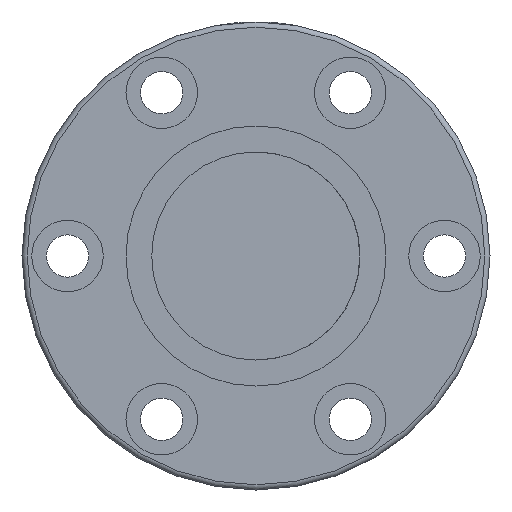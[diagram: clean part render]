
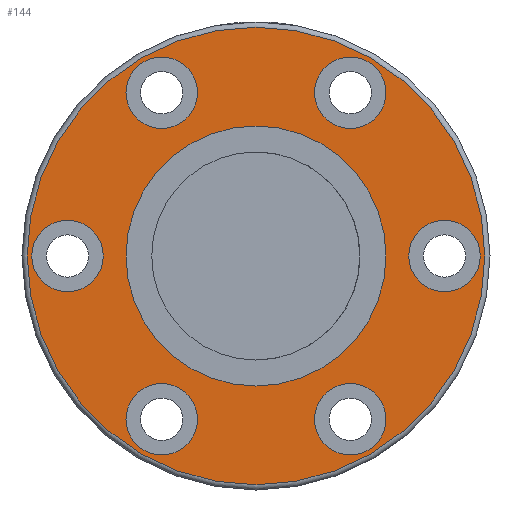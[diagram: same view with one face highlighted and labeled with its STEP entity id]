
A CAD part, front view. The second image highlights one B-rep face of the part: STEP entity #144.
In plain terms, the highlighted planar face has unit normal (0, -1, 0).
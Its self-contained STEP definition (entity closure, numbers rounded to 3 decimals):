
#144=ADVANCED_FACE('',(#213,#214,#215,#216,#217,#218,#219,#220),#193,.F.);
#193=PLANE('',#728);
#213=FACE_BOUND('',#318,.T.);
#214=FACE_BOUND('',#319,.T.);
#215=FACE_BOUND('',#320,.T.);
#216=FACE_BOUND('',#321,.T.);
#217=FACE_BOUND('',#322,.T.);
#218=FACE_BOUND('',#323,.T.);
#219=FACE_BOUND('',#324,.T.);
#220=FACE_BOUND('',#325,.T.);
#318=EDGE_LOOP('',(#426));
#319=EDGE_LOOP('',(#427));
#320=EDGE_LOOP('',(#428));
#321=EDGE_LOOP('',(#429));
#322=EDGE_LOOP('',(#430));
#323=EDGE_LOOP('',(#431));
#324=EDGE_LOOP('',(#432));
#325=EDGE_LOOP('',(#433));
#426=ORIENTED_EDGE('',*,*,#604,.T.);
#427=ORIENTED_EDGE('',*,*,#605,.T.);
#428=ORIENTED_EDGE('',*,*,#606,.T.);
#429=ORIENTED_EDGE('',*,*,#607,.T.);
#430=ORIENTED_EDGE('',*,*,#608,.T.);
#431=ORIENTED_EDGE('',*,*,#609,.T.);
#432=ORIENTED_EDGE('',*,*,#610,.T.);
#433=ORIENTED_EDGE('',*,*,#611,.F.);
#546=VERTEX_POINT('',#1038);
#547=VERTEX_POINT('',#1040);
#548=VERTEX_POINT('',#1042);
#549=VERTEX_POINT('',#1044);
#550=VERTEX_POINT('',#1046);
#551=VERTEX_POINT('',#1048);
#552=VERTEX_POINT('',#1050);
#553=VERTEX_POINT('',#1052);
#604=EDGE_CURVE('',#546,#546,#664,.T.);
#605=EDGE_CURVE('',#547,#547,#665,.T.);
#606=EDGE_CURVE('',#548,#548,#666,.T.);
#607=EDGE_CURVE('',#549,#549,#667,.T.);
#608=EDGE_CURVE('',#550,#550,#668,.T.);
#609=EDGE_CURVE('',#551,#551,#669,.T.);
#610=EDGE_CURVE('',#552,#552,#670,.T.);
#611=EDGE_CURVE('',#553,#553,#671,.T.);
#664=CIRCLE('',#720,5.5);
#665=CIRCLE('',#721,5.5);
#666=CIRCLE('',#722,5.5);
#667=CIRCLE('',#723,5.5);
#668=CIRCLE('',#724,5.5);
#669=CIRCLE('',#725,5.5);
#670=CIRCLE('',#726,35.2);
#671=CIRCLE('',#727,20.);
#720=AXIS2_PLACEMENT_3D('',#1037,#826,#827);
#721=AXIS2_PLACEMENT_3D('',#1039,#828,#829);
#722=AXIS2_PLACEMENT_3D('',#1041,#830,#831);
#723=AXIS2_PLACEMENT_3D('',#1043,#832,#833);
#724=AXIS2_PLACEMENT_3D('',#1045,#834,#835);
#725=AXIS2_PLACEMENT_3D('',#1047,#836,#837);
#726=AXIS2_PLACEMENT_3D('',#1049,#838,#839);
#727=AXIS2_PLACEMENT_3D('',#1051,#840,#841);
#728=AXIS2_PLACEMENT_3D('',#1053,#842,#843);
#826=DIRECTION('',(0.,1.,0.));
#827=DIRECTION('',(0.,0.,1.));
#828=DIRECTION('',(0.,1.,0.));
#829=DIRECTION('',(0.,0.,1.));
#830=DIRECTION('',(0.,1.,0.));
#831=DIRECTION('',(0.,0.,1.));
#832=DIRECTION('',(0.,1.,0.));
#833=DIRECTION('',(0.,0.,1.));
#834=DIRECTION('',(0.,1.,0.));
#835=DIRECTION('',(0.,0.,1.));
#836=DIRECTION('',(0.,1.,0.));
#837=DIRECTION('',(0.,0.,1.));
#838=DIRECTION('',(0.,-1.,0.));
#839=DIRECTION('',(0.,0.,1.));
#840=DIRECTION('',(0.,-1.,0.));
#841=DIRECTION('',(1.,0.,0.));
#842=DIRECTION('',(0.,1.,0.));
#843=DIRECTION('',(0.,0.,-1.));
#1037=CARTESIAN_POINT('',(29.039,-25.961,0.));
#1038=CARTESIAN_POINT('',(29.039,-25.961,5.5));
#1039=CARTESIAN_POINT('',(-28.961,-25.961,0.));
#1040=CARTESIAN_POINT('',(-28.961,-25.961,5.5));
#1041=CARTESIAN_POINT('',(14.539,-25.961,-25.115));
#1042=CARTESIAN_POINT('',(14.539,-25.961,-19.615));
#1043=CARTESIAN_POINT('',(-14.461,-25.961,-25.115));
#1044=CARTESIAN_POINT('',(-14.461,-25.961,-19.615));
#1045=CARTESIAN_POINT('',(14.539,-25.961,25.115));
#1046=CARTESIAN_POINT('',(14.539,-25.961,30.615));
#1047=CARTESIAN_POINT('',(-14.461,-25.961,25.115));
#1048=CARTESIAN_POINT('',(-14.461,-25.961,30.615));
#1049=CARTESIAN_POINT('',(0.039,-25.961,0.));
#1050=CARTESIAN_POINT('',(0.039,-25.961,35.2));
#1051=CARTESIAN_POINT('',(0.039,-25.961,0.));
#1052=CARTESIAN_POINT('',(20.039,-25.961,0.));
#1053=CARTESIAN_POINT('',(0.039,-25.961,0.));
